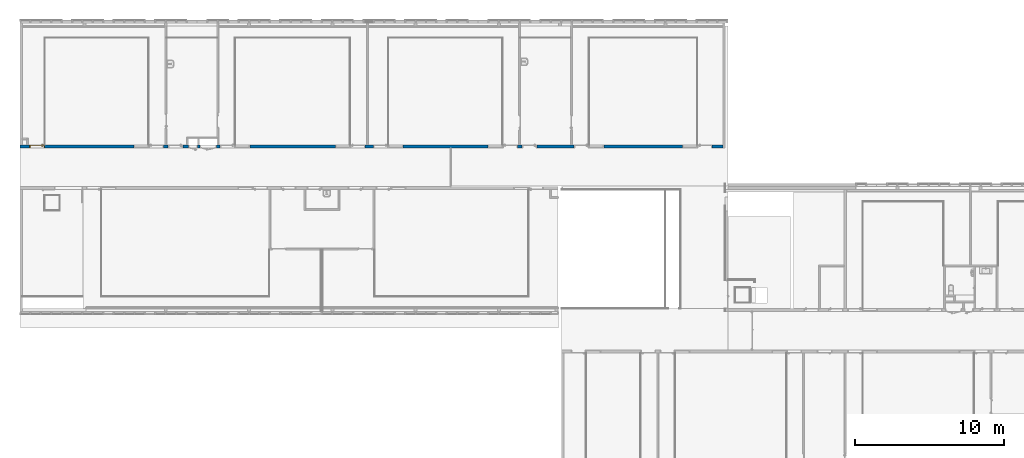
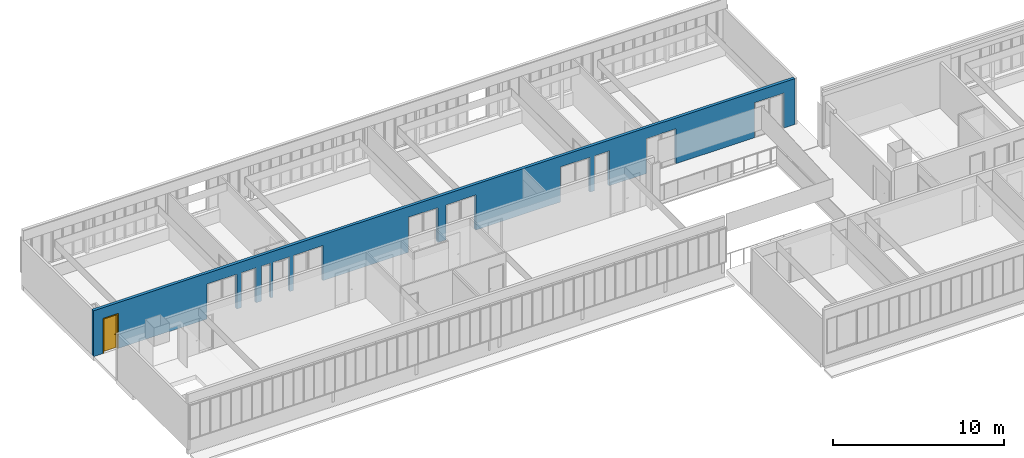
# One storey, part 37 of 87: 1 door, 1 wall, 19 openings.
"""IFC2X3 building model written with IfcOpenShell, lengths in centimetres."""

from ifc_helpers import new_model, entity, si_unit, converted_unit, derived_unit, direction, frame, frame_2d, origin, place, context, subcontext, project, spatial, rectangle, extrude, faceted_brep, source, transform, mapped, material, material_list, layer, layer_set, layer_usage, type_object, type_shapes, element, fill, save


model = new_model("IFC2X3")

# Units and contexts
model_context = context("Model", 3, precision=0.001, world=origin(), true_north=direction((6.12303176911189e-17, 1.0)))
body_context = subcontext(model_context, "Body", "Model", "MODEL_VIEW")
ifc_project = project(units=[si_unit("LENGTHUNIT", "METRE", prefix="CENTI"), si_unit("AREAUNIT", "SQUARE_METRE"), si_unit("VOLUMEUNIT", "CUBIC_METRE"), converted_unit("PLANEANGLEUNIT", "DEGREE", entity("IfcRatioMeasure", 0.0174532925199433), si_unit("PLANEANGLEUNIT", "RADIAN"), dimensions=[0, 0, 0, 0, 0, 0, 0]), si_unit("MASSUNIT", "GRAM", prefix="KILO"), derived_unit("MASSDENSITYUNIT", [(si_unit("MASSUNIT", "GRAM", prefix="KILO"), 1), (si_unit("LENGTHUNIT", "METRE"), -3)]), si_unit("TIMEUNIT", "SECOND"), si_unit("FREQUENCYUNIT", "HERTZ"), si_unit("THERMODYNAMICTEMPERATUREUNIT", "DEGREE_CELSIUS"), derived_unit("THERMALTRANSMITTANCEUNIT", [(si_unit("MASSUNIT", "GRAM", prefix="KILO"), 1), (si_unit("THERMODYNAMICTEMPERATUREUNIT", "KELVIN"), -1), (si_unit("TIMEUNIT", "SECOND"), -3)]), derived_unit("VOLUMETRICFLOWRATEUNIT", [(si_unit("LENGTHUNIT", "METRE"), 3), (si_unit("TIMEUNIT", "SECOND"), -1)]), si_unit("ELECTRICCURRENTUNIT", "AMPERE"), si_unit("ELECTRICVOLTAGEUNIT", "VOLT"), si_unit("POWERUNIT", "WATT"), si_unit("FORCEUNIT", "NEWTON", prefix="KILO"), si_unit("ILLUMINANCEUNIT", "LUX"), si_unit("LUMINOUSFLUXUNIT", "LUMEN"), si_unit("LUMINOUSINTENSITYUNIT", "CANDELA"), derived_unit("USERDEFINED", [(si_unit("MASSUNIT", "GRAM", prefix="KILO"), -1), (si_unit("LENGTHUNIT", "METRE"), -2), (si_unit("TIMEUNIT", "SECOND"), 3), (si_unit("LUMINOUSFLUXUNIT", "LUMEN"), 1)]), derived_unit("LINEARVELOCITYUNIT", [(si_unit("LENGTHUNIT", "METRE"), 1), (si_unit("TIMEUNIT", "SECOND"), -1)]), si_unit("PRESSUREUNIT", "PASCAL"), derived_unit("USERDEFINED", [(si_unit("LENGTHUNIT", "METRE"), -2), (si_unit("MASSUNIT", "GRAM", prefix="KILO"), 1), (si_unit("TIMEUNIT", "SECOND"), -2)])], contexts=[model_context])

# Site, building, storey
site_placement = place(None, frame((-2781.94577612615, 7442.24238424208, 0.0)))
site = spatial("IfcSite", under=ifc_project, at=site_placement, Name="Default", CompositionType="ELEMENT")
building_placement = place(site_placement, origin())
building = spatial("IfcBuilding", under=site, at=building_placement, CompositionType="ELEMENT")
storey_placement = place(building_placement, frame((0.0, 0.0, 774.0)))
storey = spatial("IfcBuildingStorey", under=building, at=storey_placement, Name="TR - N02 - ARCH", CompositionType="ELEMENT", Elevation=774.0)

# Wall, openings, door
ifc_material_1 = material(Name="01 - Maçonnerie")
ifc_layer = layer(ifc_material_1, 20.0)
ifc_layer_set = layer_set([ifc_layer], Name="Mur de base:04 - Structure - béton - 20cm")
ifc_layer_usage = layer_usage(ifc_layer_set, "AXIS2", "NEGATIVE", 10.0)
wall_type = type_object("IfcWallType", Name="Mur de base:04 - Structure - béton - 20cm", PredefinedType="STANDARD", material=ifc_layer_set)
wall_placement = place(storey_placement, frame((-8409.49987766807, -820.048500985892, 0.0)))
wall = element("IfcWallStandardCase", 1, at=wall_placement, inside=storey, type_object=wall_type, material=ifc_layer_usage, Name="Mur de base:04 - Structure - béton - 20cm", ObjectType="Mur de base:04 - Structure - béton - 20cm", context=body_context, shape_type="SweptSolid", body=[
    extrude(rectangle(XDim=4726.19999798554, YDim=20.0, at=frame_2d((2363.09999899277, 2.48689957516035e-14), x_axis=(-1.0, 0.0))), origin(), (0.0, 0.0, 1.0), 326.0),
])
opening_1_placement = place(wall_placement, frame((65.2999999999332, -10.0, 0.0)))
opening_1 = element("IfcOpeningElement", 2, at=opening_1_placement, cuts=wall, Name="Int. Simple:PV (0.93m x 2.50m):1", ObjectType="Opening", context=body_context, shape_type="SweptSolid", body=[
    extrude(rectangle(XDim=248.500000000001, YDim=99.9999999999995, at=frame_2d((124.250000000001, 50.0), x_axis=(1.0, 0.0))), frame((0.0, 0.0, 0.0), z_axis=(0.0, 1.0, 0.0), x_axis=(0.0, 0.0, 1.0)), (0.0, 0.0, 1.0), 20.0),
])
opening_2_placement = place(wall_placement, frame((865.699997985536, -10.0, 0.0)))
element("IfcOpeningElement", 3, at=opening_2_placement, cuts=wall, Name="Int. Simple:PV (0.93m x 2.50m):1", ObjectType="Opening", context=body_context, shape_type="SweptSolid", body=[
    extrude(rectangle(XDim=248.500000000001, YDim=99.9999999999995, at=frame_2d((124.250000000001, 49.9999999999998), x_axis=(1.0, 0.0))), frame((0.0, 0.0, 0.0), z_axis=(0.0, 1.0, 0.0), x_axis=(0.0, 0.0, 1.0)), (0.0, 0.0, 1.0), 20.0),
])
opening_3_placement = place(wall_placement, frame((995.699997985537, -10.0, 0.0)))
element("IfcOpeningElement", 4, at=opening_3_placement, cuts=wall, Name="Int. Simple:PP simple (0.93m x 2.50m):1", ObjectType="Opening", context=body_context, shape_type="SweptSolid", body=[
    extrude(rectangle(XDim=248.500000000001, YDim=99.9999999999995, at=frame_2d((124.250000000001, 50.0), x_axis=(1.0, 0.0))), frame((0.0, 0.0, 0.0), z_axis=(0.0, 1.0, 0.0), x_axis=(0.0, 0.0, 1.0)), (0.0, 0.0, 1.0), 20.0),
])
opening_4_placement = place(wall_placement, frame((1345.69999798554, -10.0, 0.0)))
element("IfcOpeningElement", 5, at=opening_4_placement, cuts=wall, Name="Int. Simple:PV (0.93m x 2.50m):1", ObjectType="Opening", context=body_context, shape_type="SweptSolid", body=[
    extrude(rectangle(XDim=248.500000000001, YDim=99.9999999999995, at=frame_2d((124.250000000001, 50.0), x_axis=(1.0, 0.0))), frame((0.0, 0.0, 0.0), z_axis=(0.0, 1.0, 0.0), x_axis=(0.0, 0.0, 1.0)), (0.0, 0.0, 1.0), 20.0),
])
opening_5_placement = place(wall_placement, frame((2220.69999798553, -10.0, 0.0)))
element("IfcOpeningElement", 6, at=opening_5_placement, cuts=wall, Name="Int. Simple:PV (0.93m x 2.50m):1", ObjectType="Opening", context=body_context, shape_type="SweptSolid", body=[
    extrude(rectangle(XDim=248.500000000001, YDim=99.9999999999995, at=frame_2d((124.250000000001, 49.9999999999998), x_axis=(1.0, 0.0))), frame((0.0, 0.0, 0.0), z_axis=(0.0, 1.0, 0.0), x_axis=(0.0, 0.0, 1.0)), (0.0, 0.0, 1.0), 20.0),
])
opening_6_placement = place(wall_placement, frame((2375.69999798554, -10.0, 0.0)))
element("IfcOpeningElement", 7, at=opening_6_placement, cuts=wall, Name="Int. Simple:PV (0.93m x 2.50m):1", ObjectType="Opening", context=body_context, shape_type="SweptSolid", body=[
    extrude(rectangle(XDim=248.500000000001, YDim=99.9999999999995, at=frame_2d((124.250000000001, 50.0), x_axis=(1.0, 0.0))), frame((0.0, 0.0, 0.0), z_axis=(0.0, 1.0, 0.0), x_axis=(0.0, 0.0, 1.0)), (0.0, 0.0, 1.0), 20.0),
])
opening_7_placement = place(wall_placement, frame((3245.69999798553, -10.0, 0.0)))
element("IfcOpeningElement", 8, at=opening_7_placement, cuts=wall, Name="Int. Simple:PV (0.93m x 2.50m):1", ObjectType="Opening", context=body_context, shape_type="SweptSolid", body=[
    extrude(rectangle(XDim=248.500000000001, YDim=99.9999999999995, at=frame_2d((124.250000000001, 49.9999999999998), x_axis=(1.0, 0.0))), frame((0.0, 0.0, 0.0), z_axis=(0.0, 1.0, 0.0), x_axis=(0.0, 0.0, 1.0)), (0.0, 0.0, 1.0), 20.0),
])
opening_8_placement = place(wall_placement, frame((3725.69999798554, -10.0, 0.0)))
element("IfcOpeningElement", 9, at=opening_8_placement, cuts=wall, Name="Int. Simple:PV (0.93m x 2.50m):1", ObjectType="Opening", context=body_context, shape_type="SweptSolid", body=[
    extrude(rectangle(XDim=248.500000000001, YDim=99.9999999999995, at=frame_2d((124.250000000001, 50.0), x_axis=(1.0, 0.0))), frame((0.0, 0.0, 0.0), z_axis=(0.0, 1.0, 0.0), x_axis=(0.0, 0.0, 1.0)), (0.0, 0.0, 1.0), 20.0),
])
opening_9_placement = place(wall_placement, frame((4554.70055516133, -10.0, 0.0)))
element("IfcOpeningElement", 10, at=opening_9_placement, cuts=wall, Name="Int. Simple:PV (0.93m x 2.50m):1", ObjectType="Opening", context=body_context, shape_type="SweptSolid", body=[
    extrude(rectangle(XDim=248.500000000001, YDim=99.9999999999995, at=frame_2d((124.250000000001, 49.9999999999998), x_axis=(1.0, 0.0))), frame((0.0, 0.0, 0.0), z_axis=(0.0, 1.0, 0.0), x_axis=(0.0, 0.0, 1.0)), (0.0, 0.0, 1.0), 20.0),
])
opening_10_placement = place(wall_placement, frame((3375.69999798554, -10.0, 0.0)))
element("IfcOpeningElement", 11, at=opening_10_placement, cuts=wall, Name="Int. Simple:PP simple (0.93m x 2.50m):1", ObjectType="Opening", context=body_context, shape_type="SweptSolid", body=[
    extrude(rectangle(XDim=248.500000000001, YDim=99.9999999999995, at=frame_2d((124.250000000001, 50.0), x_axis=(1.0, 0.0))), frame((0.0, 0.0, 0.0), z_axis=(0.0, 1.0, 0.0), x_axis=(0.0, 0.0, 1.0)), (0.0, 0.0, 1.0), 20.0),
])
opening_11_placement = place(wall_placement, frame((765.699997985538, -10.0, 0.0)))
element("IfcOpeningElement", 12, at=opening_11_placement, cuts=wall, Name="châssis intérieur vitré:châssis intérieur vitré (h=270) R+1:1", ObjectType="Opening", context=body_context, shape_type="SweptSolid", body=[
    extrude(rectangle(XDim=250.0, YDim=99.9999999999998, at=frame_2d((125.0, 49.9999999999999), x_axis=(1.0, 0.0))), frame((0.0, 0.0, 0.0), z_axis=(0.0, 1.0, 0.0), x_axis=(0.0, 0.0, 1.0)), (0.0, 0.0, 1.0), 20.0),
])
opening_12_placement = place(wall_placement, frame((1445.69999798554, -10.0, 0.0)))
element("IfcOpeningElement", 13, at=opening_12_placement, cuts=wall, Name="châssis intérieur vitré:châssis intérieur vitré (h=270) R+1:1", ObjectType="Opening", context=body_context, shape_type="SweptSolid", body=[
    extrude(rectangle(XDim=250.0, YDim=99.9999999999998, at=frame_2d((125.0, 49.9999999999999), x_axis=(1.0, 0.0))), frame((0.0, 0.0, 0.0), z_axis=(0.0, 1.0, 0.0), x_axis=(0.0, 0.0, 1.0)), (0.0, 0.0, 1.0), 20.0),
])
opening_13_placement = place(wall_placement, frame((2475.69999798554, -10.0, 0.0)))
element("IfcOpeningElement", 14, at=opening_13_placement, cuts=wall, Name="châssis intérieur vitré:châssis intérieur vitré (h=270) R+1:1", ObjectType="Opening", context=body_context, shape_type="SweptSolid", body=[
    extrude(rectangle(XDim=250.0, YDim=99.9999999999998, at=frame_2d((125.0, 49.9999999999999), x_axis=(1.0, 0.0))), frame((0.0, 0.0, 0.0), z_axis=(0.0, 1.0, 0.0), x_axis=(0.0, 0.0, 1.0)), (0.0, 0.0, 1.0), 20.0),
])
opening_14_placement = place(wall_placement, frame((3145.69999798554, -10.0, 0.0)))
element("IfcOpeningElement", 15, at=opening_14_placement, cuts=wall, Name="châssis intérieur vitré:châssis intérieur vitré (h=270) R+1:1", ObjectType="Opening", context=body_context, shape_type="SweptSolid", body=[
    extrude(rectangle(XDim=250.0, YDim=99.9999999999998, at=frame_2d((125.0, 49.9999999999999), x_axis=(1.0, 0.0))), frame((0.0, 0.0, 0.0), z_axis=(0.0, 1.0, 0.0), x_axis=(0.0, 0.0, 1.0)), (0.0, 0.0, 1.0), 20.0),
])
opening_15_placement = place(wall_placement, frame((3825.69999798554, -10.0, 0.0)))
element("IfcOpeningElement", 16, at=opening_15_placement, cuts=wall, Name="châssis intérieur vitré:châssis intérieur vitré (h=270) R+1:1", ObjectType="Opening", context=body_context, shape_type="SweptSolid", body=[
    extrude(rectangle(XDim=250.0, YDim=99.9999999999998, at=frame_2d((125.0, 49.9999999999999), x_axis=(1.0, 0.0))), frame((0.0, 0.0, 0.0), z_axis=(0.0, 1.0, 0.0), x_axis=(0.0, 0.0, 1.0)), (0.0, 0.0, 1.0), 20.0),
])
opening_16_placement = place(wall_placement, frame((4454.70055516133, -10.0, 0.0)))
element("IfcOpeningElement", 17, at=opening_16_placement, cuts=wall, Name="châssis intérieur vitré:châssis intérieur vitré (h=270) R+1:1", ObjectType="Opening", context=body_context, shape_type="SweptSolid", body=[
    extrude(rectangle(XDim=250.0, YDim=99.9999999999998, at=frame_2d((125.0, 49.9999999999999), x_axis=(1.0, 0.0))), frame((0.0, 0.0, 0.0), z_axis=(0.0, 1.0, 0.0), x_axis=(0.0, 0.0, 1.0)), (0.0, 0.0, 1.0), 20.0),
])
opening_17_placement = place(wall_placement, frame((2120.69999798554, -10.0, 0.0)))
element("IfcOpeningElement", 18, at=opening_17_placement, cuts=wall, Name="châssis intérieur vitré:châssis intérieur vitré (h=270) R+1:1", ObjectType="Opening", context=body_context, shape_type="SweptSolid", body=[
    extrude(rectangle(XDim=250.0, YDim=99.9999999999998, at=frame_2d((125.0, 49.9999999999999), x_axis=(1.0, 0.0))), frame((0.0, 0.0, 0.0), z_axis=(0.0, 1.0, 0.0), x_axis=(0.0, 0.0, 1.0)), (0.0, 0.0, 1.0), 20.0),
])
opening_18_placement = place(wall_placement, frame((1193.69999798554, 10.0, 0.0)))
element("IfcOpeningElement", 19, at=opening_18_placement, cuts=wall, Name="Int. Simple:PP Placard (0.55m x 2.50m):1", ObjectType="Opening", context=body_context, shape_type="SweptSolid", body=[
    extrude(rectangle(XDim=248.500000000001, YDim=61.9999999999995, at=frame_2d((124.250000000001, 30.9999999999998), x_axis=(1.0, 0.0))), frame((0.0, 0.0, 0.0), z_axis=(0.0, -1.0, 0.0), x_axis=(0.0, 0.0, 1.0)), (0.0, 0.0, 1.0), 20.0),
])
opening_19_placement = place(wall_placement, frame((1321.69999798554, 10.0, 0.0)))
element("IfcOpeningElement", 20, at=opening_19_placement, cuts=wall, Name="Int. Double:PP Placard (1.05m x 2.09m):1", ObjectType="Opening", context=body_context, shape_type="SweptSolid", body=[
    extrude(rectangle(XDim=248.500000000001, YDim=112.0, at=frame_2d((124.250000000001, 56.0000000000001), x_axis=(1.0, 0.0))), frame((0.0, 0.0, 0.0), z_axis=(0.0, -1.0, 0.0), x_axis=(0.0, 0.0, 1.0)), (0.0, 0.0, 1.0), 20.0),
])
ifc_material_2 = material(Name="Finition Peinture - Blanc satiné")
ifc_material_3 = material(Name="Bois - Panneau de porte")
ifc_material_4 = material(Name="Bois - Cadre de porte")
ifc_material_list_1 = material_list([ifc_material_2, ifc_material_3, ifc_material_4])
ifc_material_list_2 = material_list([ifc_material_2, ifc_material_3, ifc_material_4])
door_style = type_object("IfcDoorStyle", Name="PV (0.93m x 2.50m)", ConstructionType="NOTDEFINED", OperationType="SINGLE_SWING_LEFT", ParameterTakesPrecedence=False, Sizeable=False, material=ifc_material_list_2)
shared_shape = source(origin(), body_context, "Body", "Brep", [
    faceted_brep([(10.5352761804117, -0.500000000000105, 86.6003983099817), (11.5000000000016, -0.500000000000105, 87.0), (11.5000000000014, -0.500000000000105, 108.0), (10.5352761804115, -0.500000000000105, 108.399601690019), (9.50000000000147, -0.500000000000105, 108.535898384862), (8.46472381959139, -0.500000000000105, 108.399601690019), (7.50000000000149, -0.500000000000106, 108.0), (7.50000000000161, -0.500000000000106, 87.0), (8.46472381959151, -0.500000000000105, 86.6003983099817), (9.50000000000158, -0.500000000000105, 86.464101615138), (10.5352761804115, 0.0, 108.399601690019), (11.5000000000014, 0.0, 108.0), (11.5000000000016, 0.0, 87.0), (10.5352761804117, 0.0, 86.6003983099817), (9.50000000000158, 0.0, 86.464101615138), (8.46472381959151, 0.0, 86.6003983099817), (7.50000000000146, 0.0, 87.0), (7.50000000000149, 0.0, 108.0), (8.46472381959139, 0.0, 108.399601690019), (9.50000000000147, 0.0, 108.535898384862)], [[[0, 1, 2, 3, 4, 5, 6, 7, 8, 9]], [[10, 11, 12, 13, 14, 15, 16, 17, 18, 19]], [[16, 15, 8, 7]], [[8, 15, 14, 9]], [[14, 13, 0, 9]], [[13, 12, 1, 0]], [[2, 1, 12, 11]], [[11, 10, 3, 2]], [[3, 10, 19, 4]], [[19, 18, 5, 4]], [[18, 17, 6, 5]], [[7, 6, 17, 16]]]),
    faceted_brep([(10.5352761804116, 4.0, 86.6003983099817), (11.5000000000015, 4.0, 87.0), (11.5000000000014, 4.0, 108.0), (10.5352761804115, 4.0, 108.399601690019), (9.50000000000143, 4.0, 108.535898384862), (8.46472381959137, 4.0, 108.399601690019), (7.50000000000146, 4.0, 108.0), (7.50000000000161, 4.0, 87.0), (8.46472381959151, 4.0, 86.6003983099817), (9.50000000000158, 4.0, 86.464101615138), (10.5352761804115, 4.49999999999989, 108.399601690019), (11.5000000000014, 4.49999999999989, 108.0), (11.5000000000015, 4.49999999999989, 87.0), (10.5352761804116, 4.49999999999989, 86.6003983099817), (9.50000000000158, 4.49999999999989, 86.464101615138), (8.46472381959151, 4.49999999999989, 86.6003983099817), (7.50000000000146, 4.49999999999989, 87.0), (7.50000000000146, 4.49999999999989, 108.0), (8.46472381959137, 4.49999999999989, 108.399601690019), (9.50000000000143, 4.49999999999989, 108.535898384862)], [[[0, 1, 2, 3, 4, 5, 6, 7, 8, 9]], [[10, 11, 12, 13, 14, 15, 16, 17, 18, 19]], [[11, 10, 3, 2]], [[3, 10, 19, 4]], [[19, 18, 5, 4]], [[18, 17, 6, 5]], [[7, 6, 17, 16]], [[16, 15, 8, 7]], [[8, 15, 14, 9]], [[14, 13, 0, 9]], [[13, 12, 1, 0]], [[2, 1, 12, 11]]]),
    faceted_brep([(9.29747013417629, -0.500000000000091, 100.778044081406), (9.70252986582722, -0.500000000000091, 100.778044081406), (10.1000000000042, -0.500000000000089, 100.699999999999), (10.1000000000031, -0.500000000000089, 99.3000000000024), (9.7025298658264, -0.500000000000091, 99.2219559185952), (9.29747013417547, -0.500000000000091, 99.221955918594), (8.8999999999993, -0.500000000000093, 99.2999999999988), (8.89999999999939, -0.500000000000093, 100.7), (8.89999999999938, -3.26509507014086, 100.7), (9.29747013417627, -3.10045754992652, 100.778044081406), (10.9023585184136, -4.70534593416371, 100.778044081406), (11.0701397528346, -4.30028620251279, 100.778044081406), (9.7025298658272, -2.93267631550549, 100.778044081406), (10.1000000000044, -2.76803879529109, 100.7), (10.1000000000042, -2.76803879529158, 99.3000000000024), (9.7025298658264, -2.93267631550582, 99.2219559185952), (11.0701397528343, -4.30028620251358, 99.2219559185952), (10.9023585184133, -4.70534593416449, 99.221955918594), (9.29747013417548, -3.10045754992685, 99.221955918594), (8.89999999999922, -3.26509507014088, 99.2999999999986), (10.7377209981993, -5.10281606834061, 100.7), (11.2347772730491, -3.90281606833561, 100.7), (11.2347772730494, -3.90281606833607, 99.3000000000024), (10.7377209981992, -5.10281606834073, 99.2999999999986), (19.5018640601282, -5.1028160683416, 99.2999999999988), (19.5018640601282, -4.70534593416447, 99.221955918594), (19.5018640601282, -4.30028620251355, 99.2219559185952), (19.5018640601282, -3.90281606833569, 99.3000000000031), (19.5018640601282, -3.90281606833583, 100.7), (19.5018640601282, -4.30028620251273, 100.778044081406), (19.5018640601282, -4.70534593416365, 100.778044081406), (19.5018640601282, -5.10281606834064, 100.699999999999), (14.7307697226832, -5.10281606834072, 100.7), (15.2860019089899, -4.5028160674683, 100.78786867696), (15.3683206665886, -3.9028160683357, 100.7), (15.3683206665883, -3.90281606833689, 99.3000000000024), (15.2860018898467, -4.50281607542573, 99.2121313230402), (14.7307700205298, -5.10281606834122, 99.2999999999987)], [[[0, 1, 2, 3, 4, 5, 6, 7]], [[8, 9, 0, 7]], [[9, 10, 11, 12, 1, 0]], [[12, 13, 2, 1]], [[3, 2, 13, 14]], [[14, 15, 4, 3]], [[15, 16, 17, 18, 5, 4]], [[18, 19, 6, 5]], [[7, 6, 19, 8]], [[20, 10, 9, 8]], [[11, 21, 13, 12]], [[14, 13, 21, 22]], [[22, 16, 15, 14]], [[17, 23, 19, 18]], [[8, 19, 23, 20]], [[24, 25, 26, 27, 28, 29, 30, 31]], [[32, 30, 33]], [[31, 30, 32]], [[10, 20, 32]], [[33, 34, 11]], [[21, 11, 34]], [[34, 29, 28]], [[30, 29, 33]], [[29, 34, 33]], [[10, 32, 33]], [[10, 33, 11]], [[22, 21, 34, 28, 27, 35]], [[35, 26, 36]], [[37, 36, 25]], [[22, 35, 16]], [[35, 27, 26]], [[24, 37, 25]], [[23, 17, 37]], [[37, 17, 36]], [[17, 16, 36]], [[16, 35, 36]], [[25, 36, 26]], [[20, 23, 37, 24, 31, 32]]]),
    faceted_brep([(9.29747013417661, 4.49999999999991, 100.778044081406), (8.89999999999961, 4.4999999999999, 100.7), (8.89999999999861, 4.4999999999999, 99.2999999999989), (9.29747013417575, 4.49999999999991, 99.221955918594), (9.70252986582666, 4.49999999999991, 99.2219559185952), (10.1000000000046, 4.49999999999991, 99.3000000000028), (10.1000000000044, 4.49999999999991, 100.7), (9.70252986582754, 4.49999999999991, 100.778044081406), (10.1000000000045, 6.7485204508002, 99.3000000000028), (10.1000000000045, 6.74852045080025, 100.7), (9.70252986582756, 6.91315797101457, 100.778044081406), (11.083890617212, 8.29451872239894, 100.778044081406), (10.916109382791, 8.69957845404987, 100.778044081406), (9.29747013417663, 7.0809392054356, 100.778044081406), (8.89999999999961, 7.24557672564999, 100.7), (8.89999999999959, 7.2455767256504, 99.2999999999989), (9.29747013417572, 7.08093920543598, 99.221955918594), (10.9161093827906, 8.69957845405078, 99.221955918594), (11.0838906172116, 8.29451872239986, 99.2219559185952), (9.70252986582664, 6.91315797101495, 99.2219559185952), (11.2485281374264, 7.89704858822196, 99.3000000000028), (11.2485281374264, 7.89704858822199, 100.7), (10.7514718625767, 9.09704858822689, 100.7), (10.7514718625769, 9.0970485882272, 99.2999999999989), (19.5045783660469, 7.89704858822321, 99.3000000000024), (19.5045783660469, 8.29451872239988, 99.2219559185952), (19.5045783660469, 8.6995784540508, 99.221955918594), (19.5045783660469, 9.09704858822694, 99.2999999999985), (19.5045783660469, 9.09704858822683, 100.7), (19.5045783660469, 8.69957845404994, 100.778044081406), (19.5045783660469, 8.29451872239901, 100.778044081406), (19.5045783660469, 7.89704858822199, 100.7), (15.3765520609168, 7.89704858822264, 99.3000000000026), (15.3765532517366, 7.89704858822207, 100.7), (15.294234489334, 8.49704858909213, 100.78786867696), (14.7445205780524, 9.09704858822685, 100.7), (14.7445204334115, 9.09704858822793, 99.2999999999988), (15.2942345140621, 8.49704858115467, 99.2121313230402)], [[[0, 1, 2, 3, 4, 5, 6, 7]], [[6, 5, 8, 9]], [[9, 10, 7, 6]], [[10, 11, 12, 13, 0, 7]], [[13, 14, 1, 0]], [[2, 1, 14, 15]], [[15, 16, 3, 2]], [[16, 17, 18, 19, 4, 3]], [[19, 8, 5, 4]], [[9, 8, 20, 21]], [[21, 11, 10, 9]], [[12, 22, 14, 13]], [[15, 14, 22, 23]], [[23, 17, 16, 15]], [[18, 20, 8, 19]], [[24, 25, 26, 27, 28, 29, 30, 31]], [[21, 20, 32, 24, 31, 33]], [[33, 30, 34]], [[35, 34, 29]], [[21, 33, 11]], [[33, 31, 30]], [[28, 35, 29]], [[22, 12, 35]], [[35, 12, 34]], [[12, 11, 34]], [[11, 33, 34]], [[29, 34, 30]], [[22, 35, 28, 27, 36, 23]], [[36, 26, 37]], [[27, 26, 36]], [[17, 23, 36]], [[37, 32, 18]], [[20, 18, 32]], [[32, 25, 24]], [[26, 25, 37]], [[25, 32, 37]], [[17, 36, 37]], [[17, 37, 18]]]),
    faceted_brep([(3.50000000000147, 4.0, 245.0), (96.5000000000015, 4.0, 245.0), (96.5000000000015, 4.0, 0.0), (3.50000000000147, 4.0, 0.0), (3.50000000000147, 0.0, 245.0), (3.50000000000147, 0.0, 0.0), (96.5000000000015, 0.0, 0.0), (96.5000000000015, 0.0, 245.0)], [[[0, 1, 2, 3]], [[4, 5, 6, 7]], [[1, 0, 4, 7]], [[2, 1, 7, 6]], [[3, 2, 6, 5]], [[0, 3, 5, 4]]]),
    faceted_brep([(0.0, 20.0, 0.0), (-1.50000000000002, 20.0, 0.0), (-1.50000000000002, 20.5000000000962, 0.0), (5.0, 20.5000000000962, 0.0), (5.0, 4.0, 0.0), (3.50000000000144, 4.0, 0.0), (3.50000000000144, -0.500000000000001, 0.0), (-1.50000000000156, -0.500000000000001, 0.0), (-1.50000000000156, 0.0, 0.0), (0.0, 0.0, 0.0), (0.0, 20.0, 248.500000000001), (100.0, 20.0, 248.500000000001), (100.0, 20.0, 0.0), (101.5, 20.0, 0.0), (101.5, 20.0, 250.0), (-1.50000000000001, 20.0, 250.0), (-1.50000000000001, 20.5000000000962, 250.0), (101.5, 20.5000000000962, 250.0), (101.5, 20.5000000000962, 0.0), (95.0, 20.5000000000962, 0.0), (95.0, 20.5000000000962, 243.5), (5.0, 20.5000000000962, 243.5), (5.0, 4.0, 243.5), (95.0, 4.0, 243.5), (95.0, 4.0, 0.0), (96.499999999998, 4.0, 0.0), (96.499999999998, 4.0, 245.0), (3.50000000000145, 4.0, 245.0), (3.50000000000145, -0.500000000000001, 245.0), (96.499999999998, -0.500000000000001, 245.0), (96.499999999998, -0.500000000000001, 0.0), (101.500000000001, -0.500000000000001, 0.0), (101.500000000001, -0.500000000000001, 250.0), (-1.50000000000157, -0.500000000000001, 250.0), (-1.50000000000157, 0.0, 250.0), (101.500000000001, 0.0, 250.0), (101.500000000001, 0.0, 0.0), (100.0, 0.0, 0.0), (100.0, 0.0, 248.500000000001), (0.0, 0.0, 248.500000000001)], [[[0, 1, 2, 3, 4, 5, 6, 7, 8, 9]], [[1, 0, 10, 11, 12, 13, 14, 15]], [[2, 1, 15, 16]], [[3, 2, 16, 17, 18, 19, 20, 21]], [[3, 21, 22, 4]], [[5, 4, 22, 23, 24, 25, 26, 27]], [[5, 27, 28, 6]], [[7, 6, 28, 29, 30, 31, 32, 33]], [[8, 7, 33, 34]], [[9, 8, 34, 35, 36, 37, 38, 39]], [[0, 9, 39, 10]], [[11, 38, 37, 12]], [[12, 37, 36, 31, 30, 25, 24, 19, 18, 13]], [[17, 14, 13, 18]], [[23, 20, 19, 24]], [[29, 26, 25, 30]], [[35, 32, 31, 36]], [[16, 15, 14, 17]], [[22, 21, 20, 23]], [[28, 27, 26, 29]], [[34, 33, 32, 35]], [[10, 39, 38, 11]]]),
])
type_shapes(door_style, [shared_shape])
door_placement = place(opening_1_placement, frame((100.0, 20.0, 0.0), z_axis=(0.0, 0.0, 1.0), x_axis=(-1.0, 0.0, 0.0)))
door = element("IfcDoor", 21, at=door_placement, inside=storey, type_object=door_style, material=ifc_material_list_1, Name="Int. Simple:PV (0.93m x 2.50m)", ObjectType="Int. Simple:PV (0.93m x 2.50m)", OverallHeight=248.500000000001, OverallWidth=99.9999999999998, context=body_context, shape_type="MappedRepresentation", body=[
    mapped(shared_shape, transform((0.0, 0.0, 0.0), scale=1.0)),
])
fill(opening_1, door)

save(model, "model.ifc")
